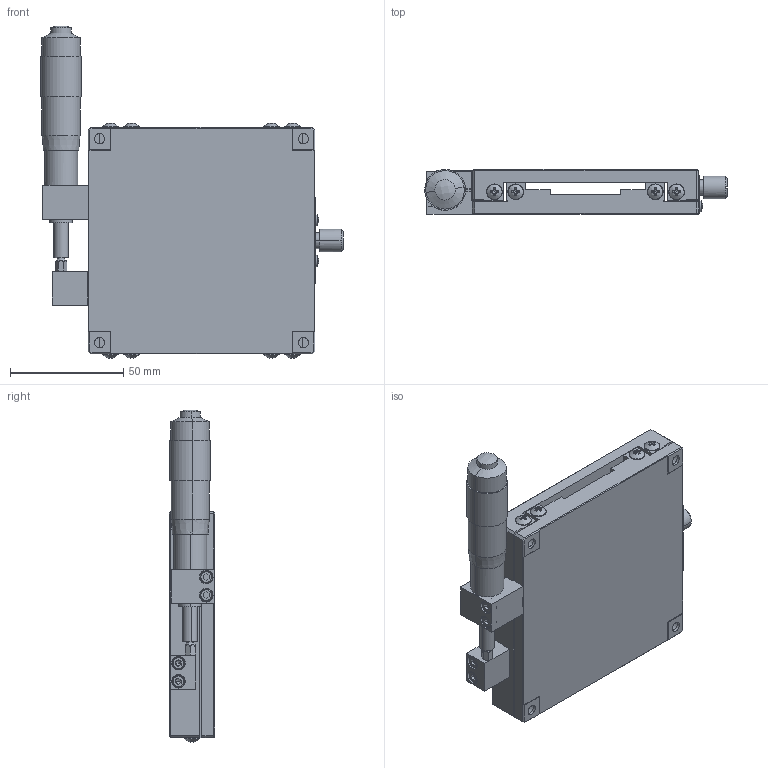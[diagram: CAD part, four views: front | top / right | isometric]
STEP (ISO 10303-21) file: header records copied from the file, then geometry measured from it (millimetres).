
FILE_DESCRIPTION (( 'STEP AP214' ), '1' );
FILE_NAME ('LX100-L.STEP', '2013-08-16T06:23:54', ( 'pengyu' ), ( '' ), 'SwSTEP 2.0', 'SolidWorks 2011', '' );
FILE_SCHEMA (( 'AUTOMOTIVE_DESIGN' ));
Length unit declared in the file: millimetre
Products named in the file (4): L100L-2; L100L-1; LX100-L; MT25-3-1
Assembly tree (3 placements, depth 2):
  LX100-L
    MT25-3-1
    L100L-2
    L100L-1
Bounding box: 133.59 x 20 x 146.58 mm (x, y, z)
Volume: 188256.9 mm3; surface area: 67733.5 mm2
Topology: 3 solids, 9 shells, 617 faces, 1566 edges, 974 vertices
Faces by surface type: plane 352, cylinder 131, cone 92, bspline 42
Entity records: 19526 total; most frequent: CARTESIAN_POINT 4765, ORIENTED_EDGE 3052, DIRECTION 3032, EDGE_CURVE 1526, AXIS2_PLACEMENT_3D 1125, VERTEX_POINT 974, VECTOR 782, LINE 782
